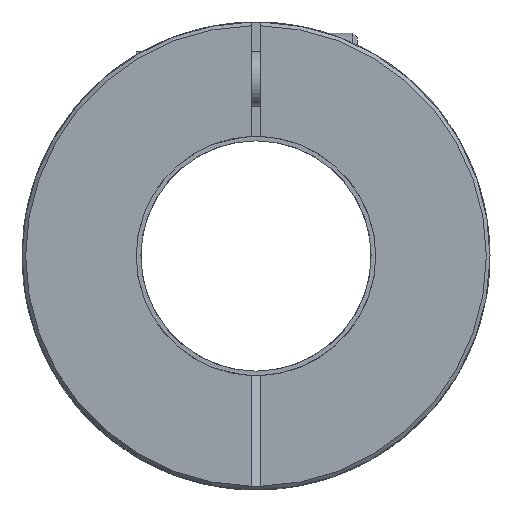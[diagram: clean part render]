
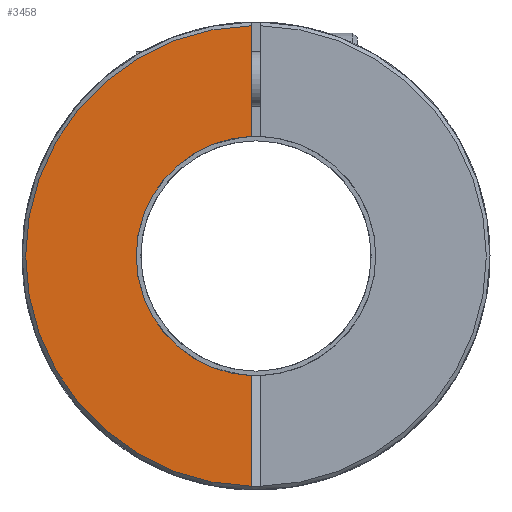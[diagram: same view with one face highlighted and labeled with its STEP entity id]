
A CAD part, front view. The second image highlights one B-rep face of the part: STEP entity #3458.
In plain terms, the highlighted planar face has unit normal (0, -1, 0).
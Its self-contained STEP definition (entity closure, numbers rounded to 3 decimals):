
#1=DIRECTION('',(0.,0.,-1.));
#2=VECTOR('',#1,12.005);
#3=CARTESIAN_POINT('',(-0.5,-47.65,24.995));
#4=LINE('',#3,#2);
#5=CARTESIAN_POINT('',(0.,-47.65,0.));
#6=DIRECTION('',(0.,1.,0.));
#7=DIRECTION('',(-1.,0.,0.));
#8=AXIS2_PLACEMENT_3D('',#5,#6,#7);
#10=CARTESIAN_POINT('',(0.,-47.65,0.));
#11=DIRECTION('',(0.,1.,0.));
#12=DIRECTION('',(-0.038,0.,-0.999));
#13=AXIS2_PLACEMENT_3D('',#10,#11,#12);
#15=DIRECTION('',(0.,0.,-1.));
#16=VECTOR('',#15,12.005);
#17=CARTESIAN_POINT('',(-0.5,-47.65,-12.99));
#18=LINE('',#17,#16);
#2943=CARTESIAN_POINT('',(0.,-47.65,0.));
#2944=DIRECTION('',(0.,-1.,0.));
#2945=DIRECTION('',(-0.02,0.,1.));
#2946=AXIS2_PLACEMENT_3D('',#2943,#2944,#2945);
#3104=CARTESIAN_POINT('',(-13.,-47.65,0.));
#3105=VERTEX_POINT('',#3104);
#3234=CARTESIAN_POINT('',(-0.5,-47.65,24.995));
#3235=CARTESIAN_POINT('',(-0.5,-47.65,12.99));
#3236=VERTEX_POINT('',#3234);
#3237=VERTEX_POINT('',#3235);
#3238=CARTESIAN_POINT('',(-0.5,-47.65,-12.99));
#3239=CARTESIAN_POINT('',(-0.5,-47.65,-24.995));
#3240=VERTEX_POINT('',#3238);
#3241=VERTEX_POINT('',#3239);
#3441=CARTESIAN_POINT('',(0.,-47.65,0.));
#3442=DIRECTION('',(0.,1.,0.));
#3443=DIRECTION('',(1.,0.,0.));
#3444=AXIS2_PLACEMENT_3D('',#3441,#3442,#3443);
#3445=PLANE('',#3444);
#3447=ORIENTED_EDGE('',*,*,#3446,.T.);
#3449=ORIENTED_EDGE('',*,*,#3448,.F.);
#3451=ORIENTED_EDGE('',*,*,#3450,.F.);
#3453=ORIENTED_EDGE('',*,*,#3452,.T.);
#3455=ORIENTED_EDGE('',*,*,#3454,.F.);
#3456=EDGE_LOOP('',(#3447,#3449,#3451,#3453,#3455));
#3457=FACE_OUTER_BOUND('',#3456,.F.);
#3458=ADVANCED_FACE('',(#3457),#3445,.F.);
#9=CIRCLE('',#8,13.);
#14=CIRCLE('',#13,13.);
#2947=CIRCLE('',#2946,25.);
#3446=EDGE_CURVE('',#3236,#3237,#4,.T.);
#3448=EDGE_CURVE('',#3105,#3237,#9,.T.);
#3450=EDGE_CURVE('',#3240,#3105,#14,.T.);
#3452=EDGE_CURVE('',#3240,#3241,#18,.T.);
#3454=EDGE_CURVE('',#3236,#3241,#2947,.T.);
